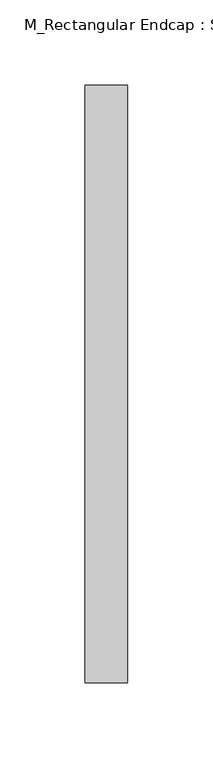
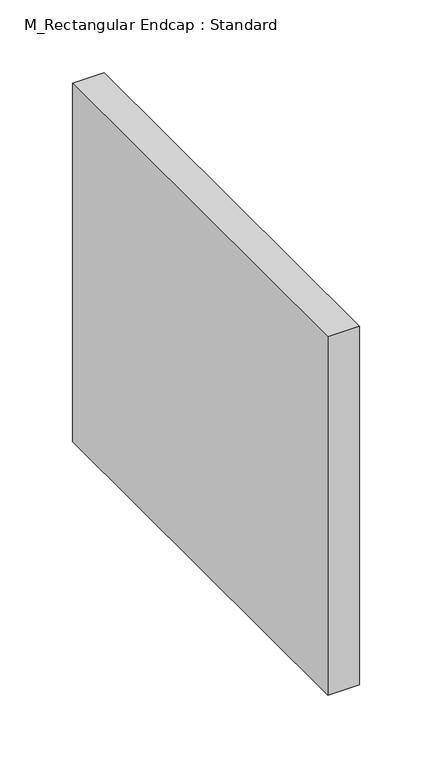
"""IFC4 building model written with IfcOpenShell, lengths in millimetres: duct fitting geometry, M_Rectangular Endcap : Standard."""

from ifc_helpers import new_model, si_unit, frame, origin, place, context, project, spatial, polyline, outline, extrude, source, transform, mapped, element, save


def m_rectangular_endcap_standard_eed78c44(model_context):
    return source(origin(), model_context, "Body", "SweptSolid", [
        extrude(outline(polyline([(0.0, -175.0), (0.0, 175.0), (25.0, 175.0), (25.0, -175.0), (0.0, -175.0)])), frame((0.0, 0.0, -150.0), z_axis=(0.0, 0.0, 1.0), x_axis=(1.0, 0.0, 0.0)), (0.0, 0.0, 1.0), 300.0),
    ])


if __name__ == "__main__":
    model = new_model("IFC4")
    model_context = context("Model", 3, world=origin())
    ifc_project = project(units=[si_unit("LENGTHUNIT", "METRE", prefix="MILLI")], contexts=[model_context])
    site = spatial("IfcSite", under=ifc_project)
    building = spatial("IfcBuilding", under=site)
    placement = place(None, origin())
    m_rectangular_endcap_standard_shape = m_rectangular_endcap_standard_eed78c44(model_context)
    element("IfcDuctFitting", 1, ObjectType="M_Rectangular Endcap : Standard", at=placement, inside=building, context=model_context, shape_type="MappedRepresentation", body=[
        mapped(m_rectangular_endcap_standard_shape, transform((0.0, 0.0, 0.0), x_axis=(1.0, 0.0, 0.0), y_axis=(0.0, 1.0, 0.0), z_axis=(0.0, 0.0, 1.0))),
    ])
    save(model, "model.ifc")
